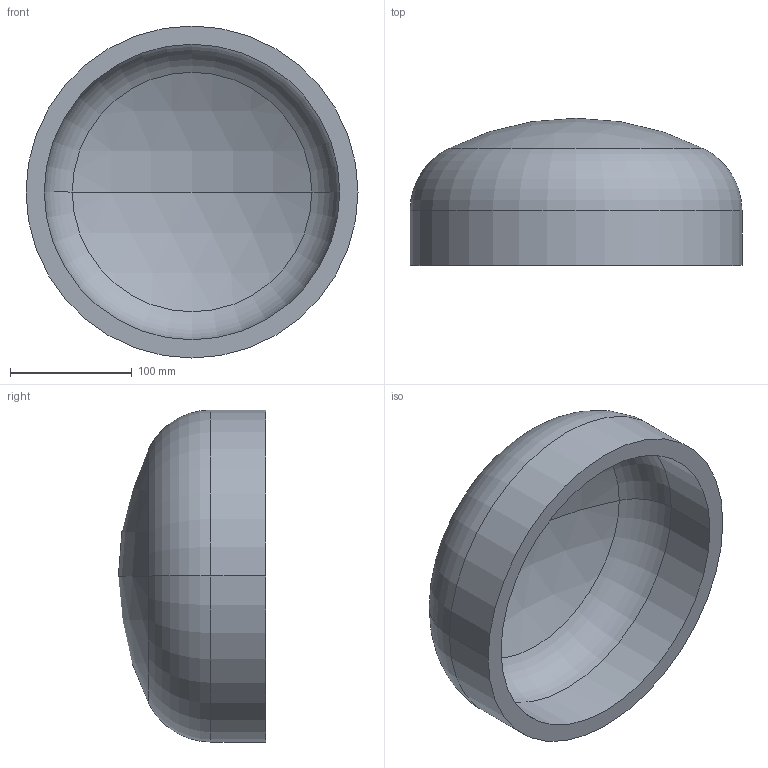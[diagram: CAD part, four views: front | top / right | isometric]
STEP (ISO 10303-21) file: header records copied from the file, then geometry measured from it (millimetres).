
FILE_DESCRIPTION (( 'STEP AP203' ), '1' );
FILE_NAME ('DIN 28013 Korbbogenform_-_Boden DIN 28013 - 273 x 45 - I - s=15.step', '2016-07-01T07:43:15', ( '' ), ( '' ), 'SwSTEP 2.0', 'SolidWorks 2013', '' );
FILE_SCHEMA (( 'CONFIG_CONTROL_DESIGN' ));
Length unit declared in the file: millimetre
Products named in the file (1): DIN 28013 Korbbogenform_-_Boden DIN 28013 - 273 x 45 - I - s=15
Bounding box: 273 x 120.98 x 273 mm (x, y, z)
Volume: 1680457.5 mm3; surface area: 236690.2 mm2
Topology: 1 solids, 1 shells, 13 faces, 24 edges, 14 vertices
Faces by surface type: torus 4, cylinder 4, sphere 4, plane 1
Entity records: 407 total; most frequent: DIRECTION 72, CARTESIAN_POINT 52, ORIENTED_EDGE 48, AXIS2_PLACEMENT_3D 34, EDGE_CURVE 24, CIRCLE 20, VERTEX_POINT 14, EDGE_LOOP 14
